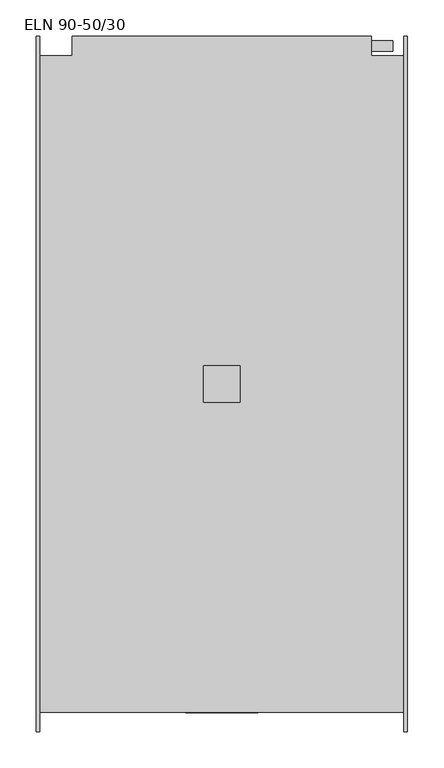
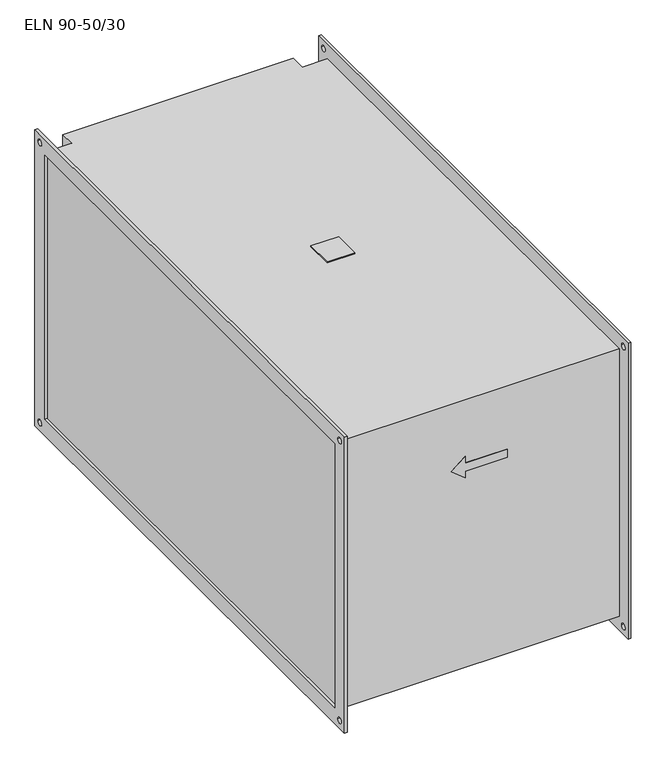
"""IFC4 building model written with IfcOpenShell, lengths in millimetres: proxy geometry, KORF_Нагреватель_Электрический_ELN : ELN 90-50/30."""

from ifc_helpers import new_model, si_unit, point, frame, frame_2d, origin, place, context, project, spatial, polyline, circle_curve, trimmed, segment, composite_curve, outline, extrude, source, transform, mapped, element, save


def eln_90_50_30_69c1a980(model_context):
    return source(origin(), model_context, "Body", "SweptSolid", [
        extrude(outline(polyline([(231.5, -25.0), (231.5, 25.0), (281.5, 25.0), (281.5, -25.0), (231.5, -25.0)])), frame((0.0, 0.0, 253.0), z_axis=(0.0, 0.0, 1.0), x_axis=(1.0, 0.0, 0.0)), (0.0, 0.0, 1.0), 2.0),
        extrude(outline(composite_curve([segment(trimmed(circle_curve(frame_2d((466.5, -126.5)), 7.5), [point((459.0, -126.5))], [point((474.0, -126.5))], False, "CARTESIAN"), True, "CONTINUOUS"), segment(trimmed(circle_curve(frame_2d((466.5, -126.5)), 7.5), [point((474.0, -126.5))], [point((459.0, -126.5))], False, "CARTESIAN"), True, "CONTINUOUS")], self_intersect=False)), frame((463.0, 0.0, 0.0), z_axis=(1.0, 0.0, 0.0), x_axis=(0.0, 1.0, 0.0)), (0.0, 0.0, 1.0), 30.0),
        extrude(outline(composite_curve([segment(trimmed(circle_curve(frame_2d((466.5, -106.5)), 7.5), [point((459.0, -106.5))], [point((474.0, -106.5))], False, "CARTESIAN"), True, "CONTINUOUS"), segment(trimmed(circle_curve(frame_2d((466.5, -106.5)), 7.5), [point((474.0, -106.5))], [point((459.0, -106.5))], False, "CARTESIAN"), True, "CONTINUOUS")], self_intersect=False)), frame((463.0, 0.0, 0.0), z_axis=(1.0, 0.0, 0.0), x_axis=(0.0, 1.0, 0.0)), (0.0, 0.0, 1.0), 30.0),
        extrude(outline(composite_curve([segment(trimmed(circle_curve(frame_2d((466.5, -146.5)), 7.5), [point((459.0, -146.5))], [point((474.0, -146.5))], False, "CARTESIAN"), True, "CONTINUOUS"), segment(trimmed(circle_curve(frame_2d((466.5, -146.5)), 7.5), [point((474.0, -146.5))], [point((459.0, -146.5))], False, "CARTESIAN"), True, "CONTINUOUS")], self_intersect=False)), frame((463.0, 0.0, 0.0), z_axis=(1.0, 0.0, 0.0), x_axis=(0.0, 1.0, 0.0)), (0.0, 0.0, 1.0), 30.0),
        extrude(outline(polyline([(146.5, 231.5), (126.5, 206.5), (106.5, 231.5), (119.0, 231.5), (119.0, 306.5), (134.0, 306.5), (134.0, 231.5), (146.5, 231.5)])), frame((0.0, -454.0, 0.0), z_axis=(0.0, 1.0, 0.0), x_axis=(0.0, 0.0, 1.0)), (0.0, 0.0, 1.0), 1.0),
        extrude(outline(polyline([(508.0, 453.0), (508.0, -453.0), (5.0, -453.0), (5.0, 453.0), (50.0, 453.0), (50.0, 480.0), (463.0, 480.0), (463.0, 453.0), (508.0, 453.0)])), frame((0.0, 0.0, -253.0), z_axis=(0.0, 0.0, 1.0), x_axis=(1.0, 0.0, 0.0)), (0.0, 0.0, 1.0), 506.0),
        extrude(outline(polyline([(-480.0, 280.0), (480.0, 280.0), (480.0, -280.0), (-480.0, -280.0), (-480.0, 280.0)]), holes=[polyline([(-450.0, 250.0), (-450.0, -250.0), (450.0, -250.0), (450.0, 250.0), (-450.0, 250.0)]), composite_curve([segment(trimmed(circle_curve(frame_2d((465.0, 265.0)), 5.5), [point((459.5, 265.0))], [point((470.5, 265.0))], True, "CARTESIAN"), True, "CONTINUOUS"), segment(trimmed(circle_curve(frame_2d((465.0, 265.0)), 5.5), [point((470.5, 265.0))], [point((459.5, 265.0))], True, "CARTESIAN"), True, "CONTINUOUS")], self_intersect=False), composite_curve([segment(trimmed(circle_curve(frame_2d((-465.0, 265.0)), 5.5), [point((-470.5, 265.0))], [point((-459.5, 265.0))], True, "CARTESIAN"), True, "CONTINUOUS"), segment(trimmed(circle_curve(frame_2d((-465.0, 265.0)), 5.5), [point((-459.5, 265.0))], [point((-470.5, 265.0))], True, "CARTESIAN"), True, "CONTINUOUS")], self_intersect=False), composite_curve([segment(trimmed(circle_curve(frame_2d((-465.0, -265.0)), 5.5), [point((-470.5, -265.0))], [point((-459.5, -265.0))], True, "CARTESIAN"), True, "CONTINUOUS"), segment(trimmed(circle_curve(frame_2d((-465.0, -265.0)), 5.5), [point((-459.5, -265.0))], [point((-470.5, -265.0))], True, "CARTESIAN"), True, "CONTINUOUS")], self_intersect=False), composite_curve([segment(trimmed(circle_curve(frame_2d((465.0, -265.0)), 5.5), [point((459.5, -265.0))], [point((470.5, -265.0))], True, "CARTESIAN"), True, "CONTINUOUS"), segment(trimmed(circle_curve(frame_2d((465.0, -265.0)), 5.5), [point((470.5, -265.0))], [point((459.5, -265.0))], True, "CARTESIAN"), True, "CONTINUOUS")], self_intersect=False)]), frame((508.0, 0.0, 0.0), z_axis=(1.0, 0.0, 0.0), x_axis=(0.0, 1.0, 0.0)), (0.0, 0.0, 1.0), 5.0),
        extrude(outline(polyline([(-480.0, 280.0), (480.0, 280.0), (480.0, -280.0), (-480.0, -280.0), (-480.0, 280.0)]), holes=[polyline([(-450.0, 250.0), (-450.0, -250.0), (450.0, -250.0), (450.0, 250.0), (-450.0, 250.0)]), composite_curve([segment(trimmed(circle_curve(frame_2d((465.0, 265.0)), 5.5), [point((459.5, 265.0))], [point((470.5, 265.0))], True, "CARTESIAN"), True, "CONTINUOUS"), segment(trimmed(circle_curve(frame_2d((465.0, 265.0)), 5.5), [point((470.5, 265.0))], [point((459.5, 265.0))], True, "CARTESIAN"), True, "CONTINUOUS")], self_intersect=False), composite_curve([segment(trimmed(circle_curve(frame_2d((-465.0, 265.0)), 5.5), [point((-470.5, 265.0))], [point((-459.5, 265.0))], True, "CARTESIAN"), True, "CONTINUOUS"), segment(trimmed(circle_curve(frame_2d((-465.0, 265.0)), 5.5), [point((-459.5, 265.0))], [point((-470.5, 265.0))], True, "CARTESIAN"), True, "CONTINUOUS")], self_intersect=False), composite_curve([segment(trimmed(circle_curve(frame_2d((-465.0, -265.0)), 5.5), [point((-470.5, -265.0))], [point((-459.5, -265.0))], True, "CARTESIAN"), True, "CONTINUOUS"), segment(trimmed(circle_curve(frame_2d((-465.0, -265.0)), 5.5), [point((-459.5, -265.0))], [point((-470.5, -265.0))], True, "CARTESIAN"), True, "CONTINUOUS")], self_intersect=False), composite_curve([segment(trimmed(circle_curve(frame_2d((465.0, -265.0)), 5.5), [point((459.5, -265.0))], [point((470.5, -265.0))], True, "CARTESIAN"), True, "CONTINUOUS"), segment(trimmed(circle_curve(frame_2d((465.0, -265.0)), 5.5), [point((470.5, -265.0))], [point((459.5, -265.0))], True, "CARTESIAN"), True, "CONTINUOUS")], self_intersect=False)]), frame((0.0, 0.0, 0.0), z_axis=(1.0, 0.0, 0.0), x_axis=(0.0, 1.0, 0.0)), (0.0, 0.0, 1.0), 5.0),
    ])


if __name__ == "__main__":
    model = new_model("IFC4")
    model_context = context("Model", 3, world=origin())
    ifc_project = project(units=[si_unit("LENGTHUNIT", "METRE", prefix="MILLI")], contexts=[model_context])
    site = spatial("IfcSite", under=ifc_project)
    building = spatial("IfcBuilding", under=site)
    placement = place(None, origin())
    eln_90_50_30_shape = eln_90_50_30_69c1a980(model_context)
    element("IfcBuildingElementProxy", 1, Name="KORF_Нагреватель_Электрический_ELN : ELN 90-50/30", ObjectType="KORF_Нагреватель_Электрический_ELN : ELN 90-50/30", at=placement, inside=building, context=model_context, shape_type="MappedRepresentation", body=[
        mapped(eln_90_50_30_shape, transform((0.0, 0.0, 0.0), x_axis=(1.0, 0.0, 0.0), y_axis=(0.0, 1.0, 0.0), z_axis=(0.0, 0.0, 1.0))),
    ])
    save(model, "model.ifc")
